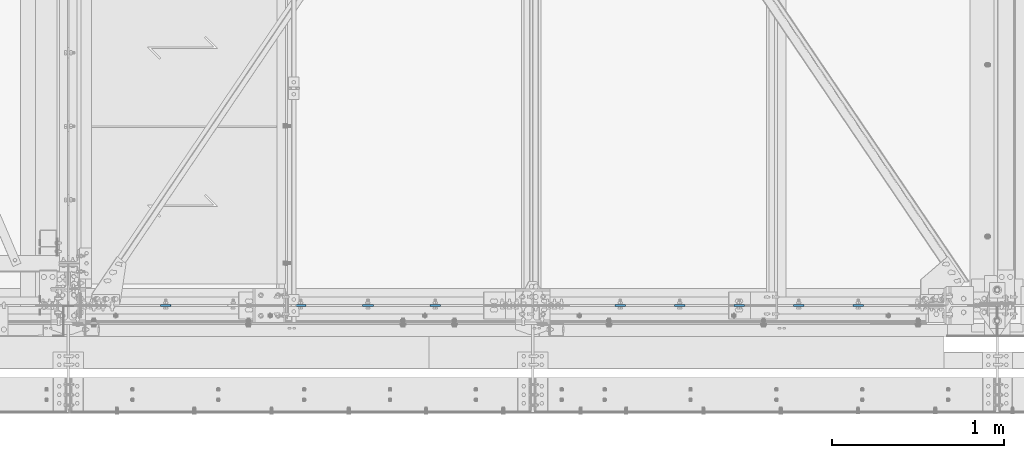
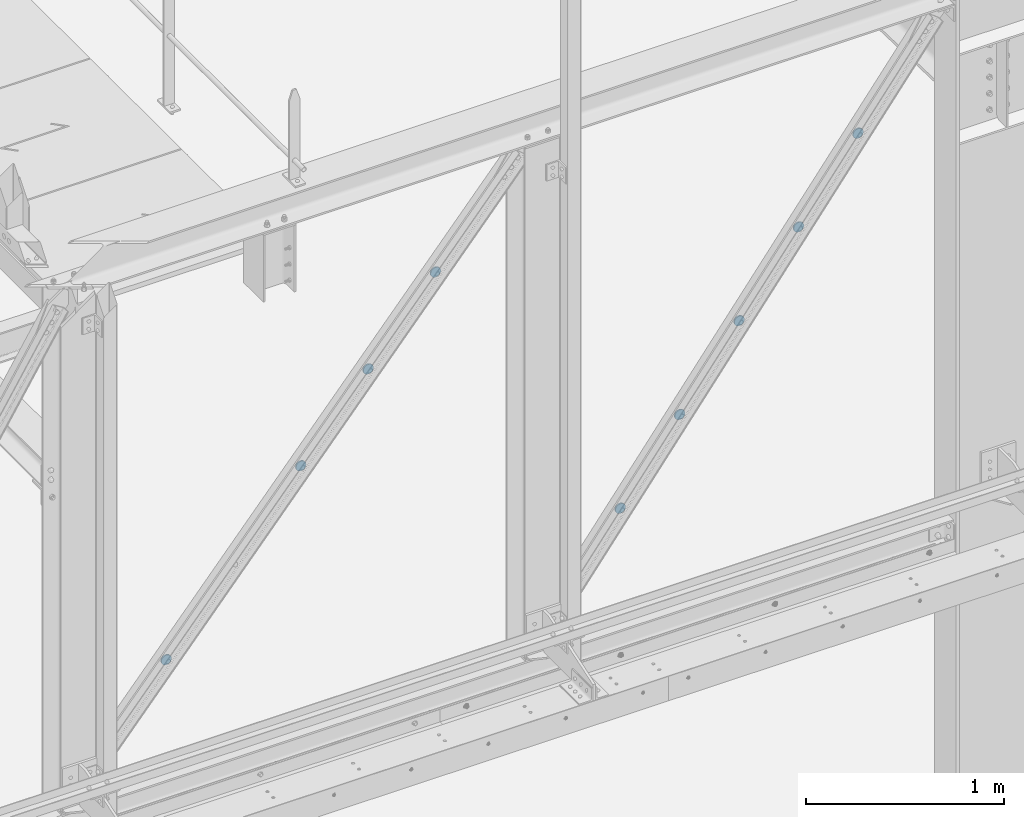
# One storey, part 122 of 362: 9 beams, 9 elements without a shape of their own.
"""IFC2X3 building model written with IfcOpenShell, lengths in millimetres."""

from ifc_helpers import new_model, si_unit, frame, frame_2d, origin_with_axes, place, context, subcontext, project, spatial, circle_curve, parameter, trimmed, segment, composite_curve, outline, extrude, material, type_object, element, aggregate, save


model = new_model("IFC2X3")

# Units and contexts
model_context = context("Model", 3, precision=1e-05, world=origin_with_axes())
body_context = subcontext(model_context, "Body", "Model", "MODEL_VIEW")
ifc_project = project(units=[si_unit("LENGTHUNIT", "METRE", prefix="MILLI"), si_unit("AREAUNIT", "SQUARE_METRE"), si_unit("VOLUMEUNIT", "CUBIC_METRE"), si_unit("MASSUNIT", "GRAM", prefix="KILO"), si_unit("TIMEUNIT", "SECOND"), si_unit("PLANEANGLEUNIT", "RADIAN"), si_unit("SOLIDANGLEUNIT", "STERADIAN"), si_unit("THERMODYNAMICTEMPERATUREUNIT", "DEGREE_CELSIUS"), si_unit("LUMINOUSINTENSITYUNIT", "LUMEN")], contexts=[model_context])

# Site, building, storey
site_placement = place(None, origin_with_axes())
site = spatial("IfcSite", under=ifc_project, at=site_placement, Name="Undefined", CompositionType="ELEMENT")
building_placement = place(site_placement, origin_with_axes())
building = spatial("IfcBuilding", under=site, at=building_placement, Name="Undefined", CompositionType="ELEMENT")
storey_placement = place(building_placement, origin_with_axes())
storey = spatial("IfcBuildingStorey", under=building, at=storey_placement, Name="Undefined", CompositionType="ELEMENT", Elevation=0.0)

# Assembly, beam
assembly_1_placement = place(storey_placement, origin_with_axes())
assembly_1 = element("IfcElementAssembly", 1, at=assembly_1_placement, inside=storey, AssemblyPlace="NOTDEFINED", PredefinedType="NOTDEFINED")
ifc_material = material(Name="Undefined/S235-E24")
beam_type = type_object("IfcBeamType", Name="TOLE8*60", PredefinedType="NOTDEFINED")
beam_1_placement = place(assembly_1_placement, frame((28100.3688503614, 0.0, 7718.26637395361), z_axis=(0.0, -1.0, 0.0), x_axis=(-1.0, 0.0, 0.0)))
beam_1 = element("IfcBeam", 2, at=beam_1_placement, type_object=beam_type, material=ifc_material, Name="PLAQUETTE", ObjectType="TOLE8*60", context=body_context, shape_type="SweptSolid", body=[
    extrude(outline(composite_curve([segment(trimmed(circle_curve(frame_2d((30.0, 30.0), x_axis=(-1.0, 0.0)), 30.0), [parameter(0.0)], [parameter(1.5707963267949)], True, "PARAMETER"), True, "CONTINUOUS"), segment(trimmed(circle_curve(frame_2d((30.0, 30.0), x_axis=(0.0, -1.0)), 30.0), [parameter(0.0)], [parameter(1.5707963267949)], True, "PARAMETER"), True, "CONTINUOUS"), segment(trimmed(circle_curve(frame_2d((30.0, 30.0), x_axis=(1.0, 0.0)), 30.0), [parameter(0.0)], [parameter(1.5707963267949)], True, "PARAMETER"), True, "CONTINUOUS"), segment(trimmed(circle_curve(frame_2d((30.0, 30.0), x_axis=(0.0, 1.0)), 30.0), [parameter(0.0)], [parameter(1.5707963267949)], True, "PARAMETER"), True, "CONTINUOUS")], self_intersect=True)), frame((0.0, 0.0, -4.0), z_axis=(0.0, 0.0, 1.0), x_axis=(1.0, 0.0, 0.0)), (0.0, 0.0, 1.0), 8.0),
])
aggregate(assembly_1, [beam_1])

assembly_2_placement = place(storey_placement, origin_with_axes())
assembly_2 = element("IfcElementAssembly", 3, at=assembly_2_placement, inside=storey, AssemblyPlace="NOTDEFINED", PredefinedType="NOTDEFINED")
beam_2_placement = place(assembly_2_placement, frame((27753.9334484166, 0.0, 7261.63454064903), z_axis=(0.0, -1.0, 0.0), x_axis=(-1.0, 0.0, 0.0)))
beam_2 = element("IfcBeam", 4, at=beam_2_placement, type_object=beam_type, material=ifc_material, Name="PLAQUETTE", ObjectType="TOLE8*60", context=body_context, shape_type="SweptSolid", body=[
    extrude(outline(composite_curve([segment(trimmed(circle_curve(frame_2d((30.0, 30.0), x_axis=(-1.0, 0.0)), 30.0), [parameter(0.0)], [parameter(1.5707963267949)], True, "PARAMETER"), True, "CONTINUOUS"), segment(trimmed(circle_curve(frame_2d((30.0, 30.0), x_axis=(0.0, -1.0)), 30.0), [parameter(0.0)], [parameter(1.5707963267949)], True, "PARAMETER"), True, "CONTINUOUS"), segment(trimmed(circle_curve(frame_2d((30.0, 30.0), x_axis=(1.0, 0.0)), 30.0), [parameter(0.0)], [parameter(1.5707963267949)], True, "PARAMETER"), True, "CONTINUOUS"), segment(trimmed(circle_curve(frame_2d((30.0, 30.0), x_axis=(0.0, 1.0)), 30.0), [parameter(0.0)], [parameter(1.5707963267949)], True, "PARAMETER"), True, "CONTINUOUS")], self_intersect=True)), frame((0.0, 0.0, -4.0), z_axis=(0.0, 0.0, 1.0), x_axis=(1.0, 0.0, 0.0)), (0.0, 0.0, 1.0), 8.0),
])
aggregate(assembly_2, [beam_2])

assembly_3_placement = place(storey_placement, origin_with_axes())
assembly_3 = element("IfcElementAssembly", 5, at=assembly_3_placement, inside=storey, AssemblyPlace="NOTDEFINED", PredefinedType="NOTDEFINED")
beam_3_placement = place(assembly_3_placement, frame((27407.4980464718, 0.0, 6805.00270734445), z_axis=(0.0, -1.0, 0.0), x_axis=(-1.0, 0.0, 0.0)))
beam_3 = element("IfcBeam", 6, at=beam_3_placement, type_object=beam_type, material=ifc_material, Name="PLAQUETTE", ObjectType="TOLE8*60", context=body_context, shape_type="SweptSolid", body=[
    extrude(outline(composite_curve([segment(trimmed(circle_curve(frame_2d((30.0, 30.0), x_axis=(-1.0, 0.0)), 30.0), [parameter(0.0)], [parameter(1.5707963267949)], True, "PARAMETER"), True, "CONTINUOUS"), segment(trimmed(circle_curve(frame_2d((30.0, 30.0), x_axis=(0.0, -1.0)), 30.0), [parameter(0.0)], [parameter(1.5707963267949)], True, "PARAMETER"), True, "CONTINUOUS"), segment(trimmed(circle_curve(frame_2d((30.0, 30.0), x_axis=(1.0, 0.0)), 30.0), [parameter(0.0)], [parameter(1.5707963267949)], True, "PARAMETER"), True, "CONTINUOUS"), segment(trimmed(circle_curve(frame_2d((30.0, 30.0), x_axis=(0.0, 1.0)), 30.0), [parameter(0.0)], [parameter(1.5707963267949)], True, "PARAMETER"), True, "CONTINUOUS")], self_intersect=True)), frame((0.0, 0.0, -4.0), z_axis=(0.0, 0.0, 1.0), x_axis=(1.0, 0.0, 0.0)), (0.0, 0.0, 1.0), 8.0),
])
aggregate(assembly_3, [beam_3])

assembly_4_placement = place(storey_placement, origin_with_axes())
assembly_4 = element("IfcElementAssembly", 7, at=assembly_4_placement, inside=storey, AssemblyPlace="NOTDEFINED", PredefinedType="NOTDEFINED")
beam_4_placement = place(assembly_4_placement, frame((27061.062644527, 0.0, 6348.37087403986), z_axis=(0.0, -1.0, 0.0), x_axis=(-1.0, 0.0, 0.0)))
beam_4 = element("IfcBeam", 8, at=beam_4_placement, type_object=beam_type, material=ifc_material, Name="PLAQUETTE", ObjectType="TOLE8*60", context=body_context, shape_type="SweptSolid", body=[
    extrude(outline(composite_curve([segment(trimmed(circle_curve(frame_2d((30.0, 30.0), x_axis=(-1.0, 0.0)), 30.0), [parameter(0.0)], [parameter(1.5707963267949)], True, "PARAMETER"), True, "CONTINUOUS"), segment(trimmed(circle_curve(frame_2d((30.0, 30.0), x_axis=(0.0, -1.0)), 30.0), [parameter(0.0)], [parameter(1.5707963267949)], True, "PARAMETER"), True, "CONTINUOUS"), segment(trimmed(circle_curve(frame_2d((30.0, 30.0), x_axis=(1.0, 0.0)), 30.0), [parameter(0.0)], [parameter(1.5707963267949)], True, "PARAMETER"), True, "CONTINUOUS"), segment(trimmed(circle_curve(frame_2d((30.0, 30.0), x_axis=(0.0, 1.0)), 30.0), [parameter(0.0)], [parameter(1.5707963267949)], True, "PARAMETER"), True, "CONTINUOUS")], self_intersect=True)), frame((0.0, 0.0, -4.0), z_axis=(0.0, 0.0, 1.0), x_axis=(1.0, 0.0, 0.0)), (0.0, 0.0, 1.0), 8.0),
])
aggregate(assembly_4, [beam_4])

assembly_5_placement = place(storey_placement, origin_with_axes())
assembly_5 = element("IfcElementAssembly", 9, at=assembly_5_placement, inside=storey, AssemblyPlace="NOTDEFINED", PredefinedType="NOTDEFINED")
beam_5_placement = place(assembly_5_placement, frame((26714.6272425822, 0.0, 5891.73904073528), z_axis=(0.0, -1.0, 0.0), x_axis=(-1.0, 0.0, 0.0)))
beam_5 = element("IfcBeam", 10, at=beam_5_placement, type_object=beam_type, material=ifc_material, Name="PLAQUETTE", ObjectType="TOLE8*60", context=body_context, shape_type="SweptSolid", body=[
    extrude(outline(composite_curve([segment(trimmed(circle_curve(frame_2d((30.0, 30.0), x_axis=(-1.0, 0.0)), 30.0), [parameter(0.0)], [parameter(1.5707963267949)], True, "PARAMETER"), True, "CONTINUOUS"), segment(trimmed(circle_curve(frame_2d((30.0, 30.0), x_axis=(0.0, -1.0)), 30.0), [parameter(0.0)], [parameter(1.5707963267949)], True, "PARAMETER"), True, "CONTINUOUS"), segment(trimmed(circle_curve(frame_2d((30.0, 30.0), x_axis=(1.0, 0.0)), 30.0), [parameter(0.0)], [parameter(1.5707963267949)], True, "PARAMETER"), True, "CONTINUOUS"), segment(trimmed(circle_curve(frame_2d((30.0, 30.0), x_axis=(0.0, 1.0)), 30.0), [parameter(0.0)], [parameter(1.5707963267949)], True, "PARAMETER"), True, "CONTINUOUS")], self_intersect=True)), frame((0.0, 0.0, -4.0), z_axis=(0.0, 0.0, 1.0), x_axis=(1.0, 0.0, 0.0)), (0.0, 0.0, 1.0), 8.0),
])
aggregate(assembly_5, [beam_5])

assembly_6_placement = place(storey_placement, origin_with_axes())
assembly_6 = element("IfcElementAssembly", 11, at=assembly_6_placement, inside=storey, AssemblyPlace="NOTDEFINED", PredefinedType="NOTDEFINED")
beam_6_placement = place(assembly_6_placement, frame((25637.3267034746, 0.0, 7724.74121122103), z_axis=(0.0, -1.0, 0.0), x_axis=(-1.0, 0.0, 0.0)))
beam_6 = element("IfcBeam", 12, at=beam_6_placement, type_object=beam_type, material=ifc_material, Name="PLAQUETTE", ObjectType="TOLE8*60", context=body_context, shape_type="SweptSolid", body=[
    extrude(outline(composite_curve([segment(trimmed(circle_curve(frame_2d((30.0, 30.0), x_axis=(-1.0, 0.0)), 30.0), [parameter(0.0)], [parameter(1.5707963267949)], True, "PARAMETER"), True, "CONTINUOUS"), segment(trimmed(circle_curve(frame_2d((30.0, 30.0), x_axis=(0.0, -1.0)), 30.0), [parameter(0.0)], [parameter(1.5707963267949)], True, "PARAMETER"), True, "CONTINUOUS"), segment(trimmed(circle_curve(frame_2d((30.0, 30.0), x_axis=(1.0, 0.0)), 30.0), [parameter(0.0)], [parameter(1.5707963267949)], True, "PARAMETER"), True, "CONTINUOUS"), segment(trimmed(circle_curve(frame_2d((30.0, 30.0), x_axis=(0.0, 1.0)), 30.0), [parameter(0.0)], [parameter(1.5707963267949)], True, "PARAMETER"), True, "CONTINUOUS")], self_intersect=True)), frame((0.0, 0.0, -4.0), z_axis=(0.0, 0.0, 1.0), x_axis=(1.0, 0.0, 0.0)), (0.0, 0.0, 1.0), 8.0),
])
aggregate(assembly_6, [beam_6])

assembly_7_placement = place(storey_placement, origin_with_axes())
assembly_7 = element("IfcElementAssembly", 13, at=assembly_7_placement, inside=storey, AssemblyPlace="NOTDEFINED", PredefinedType="NOTDEFINED")
beam_7_placement = place(assembly_7_placement, frame((25244.9133119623, 0.0, 7264.8706059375), z_axis=(0.0, -1.0, 0.0), x_axis=(-1.0, 0.0, 0.0)))
beam_7 = element("IfcBeam", 14, at=beam_7_placement, type_object=beam_type, material=ifc_material, Name="PLAQUETTE", ObjectType="TOLE8*60", context=body_context, shape_type="SweptSolid", body=[
    extrude(outline(composite_curve([segment(trimmed(circle_curve(frame_2d((30.0, 30.0), x_axis=(-1.0, 0.0)), 30.0), [parameter(0.0)], [parameter(1.5707963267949)], True, "PARAMETER"), True, "CONTINUOUS"), segment(trimmed(circle_curve(frame_2d((30.0, 30.0), x_axis=(0.0, -1.0)), 30.0), [parameter(0.0)], [parameter(1.5707963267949)], True, "PARAMETER"), True, "CONTINUOUS"), segment(trimmed(circle_curve(frame_2d((30.0, 30.0), x_axis=(1.0, 0.0)), 30.0), [parameter(0.0)], [parameter(1.5707963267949)], True, "PARAMETER"), True, "CONTINUOUS"), segment(trimmed(circle_curve(frame_2d((30.0, 30.0), x_axis=(0.0, 1.0)), 30.0), [parameter(0.0)], [parameter(1.5707963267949)], True, "PARAMETER"), True, "CONTINUOUS")], self_intersect=True)), frame((0.0, 0.0, -4.0), z_axis=(0.0, 0.0, 1.0), x_axis=(1.0, 0.0, 0.0)), (0.0, 0.0, 1.0), 8.0),
])
aggregate(assembly_7, [beam_7])

assembly_8_placement = place(storey_placement, origin_with_axes())
assembly_8 = element("IfcElementAssembly", 15, at=assembly_8_placement, inside=storey, AssemblyPlace="NOTDEFINED", PredefinedType="NOTDEFINED")
beam_8_placement = place(assembly_8_placement, frame((24852.49992045, 0.0, 6805.00000065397), z_axis=(0.0, -1.0, 0.0), x_axis=(-1.0, 0.0, 0.0)))
beam_8 = element("IfcBeam", 16, at=beam_8_placement, type_object=beam_type, material=ifc_material, Name="PLAQUETTE", ObjectType="TOLE8*60", context=body_context, shape_type="SweptSolid", body=[
    extrude(outline(composite_curve([segment(trimmed(circle_curve(frame_2d((30.0, 30.0), x_axis=(-1.0, 0.0)), 30.0), [parameter(0.0)], [parameter(1.5707963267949)], True, "PARAMETER"), True, "CONTINUOUS"), segment(trimmed(circle_curve(frame_2d((30.0, 30.0), x_axis=(0.0, -1.0)), 30.0), [parameter(0.0)], [parameter(1.5707963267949)], True, "PARAMETER"), True, "CONTINUOUS"), segment(trimmed(circle_curve(frame_2d((30.0, 30.0), x_axis=(1.0, 0.0)), 30.0), [parameter(0.0)], [parameter(1.5707963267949)], True, "PARAMETER"), True, "CONTINUOUS"), segment(trimmed(circle_curve(frame_2d((30.0, 30.0), x_axis=(0.0, 1.0)), 30.0), [parameter(0.0)], [parameter(1.5707963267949)], True, "PARAMETER"), True, "CONTINUOUS")], self_intersect=True)), frame((0.0, 0.0, -4.0), z_axis=(0.0, 0.0, 1.0), x_axis=(1.0, 0.0, 0.0)), (0.0, 0.0, 1.0), 8.0),
])
aggregate(assembly_8, [beam_8])

assembly_9_placement = place(storey_placement, origin_with_axes())
assembly_9 = element("IfcElementAssembly", 17, at=assembly_9_placement, inside=storey, AssemblyPlace="NOTDEFINED", PredefinedType="NOTDEFINED")
beam_9_placement = place(assembly_9_placement, frame((24067.6731374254, 0.0, 5885.2587900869), z_axis=(0.0, -1.0, 0.0), x_axis=(-1.0, 0.0, 0.0)))
beam_9 = element("IfcBeam", 18, at=beam_9_placement, type_object=beam_type, material=ifc_material, Name="PLAQUETTE", ObjectType="TOLE8*60", context=body_context, shape_type="SweptSolid", body=[
    extrude(outline(composite_curve([segment(trimmed(circle_curve(frame_2d((30.0, 30.0), x_axis=(-1.0, 0.0)), 30.0), [parameter(0.0)], [parameter(1.5707963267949)], True, "PARAMETER"), True, "CONTINUOUS"), segment(trimmed(circle_curve(frame_2d((30.0, 30.0), x_axis=(0.0, -1.0)), 30.0), [parameter(0.0)], [parameter(1.5707963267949)], True, "PARAMETER"), True, "CONTINUOUS"), segment(trimmed(circle_curve(frame_2d((30.0, 30.0), x_axis=(1.0, 0.0)), 30.0), [parameter(0.0)], [parameter(1.5707963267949)], True, "PARAMETER"), True, "CONTINUOUS"), segment(trimmed(circle_curve(frame_2d((30.0, 30.0), x_axis=(0.0, 1.0)), 30.0), [parameter(0.0)], [parameter(1.5707963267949)], True, "PARAMETER"), True, "CONTINUOUS")], self_intersect=True)), frame((0.0, 0.0, -4.0), z_axis=(0.0, 0.0, 1.0), x_axis=(1.0, 0.0, 0.0)), (0.0, 0.0, 1.0), 8.0),
])
aggregate(assembly_9, [beam_9])

save(model, "model.ifc")
